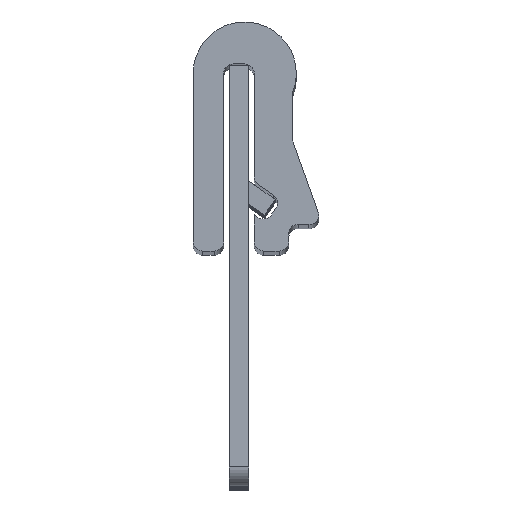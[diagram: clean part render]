
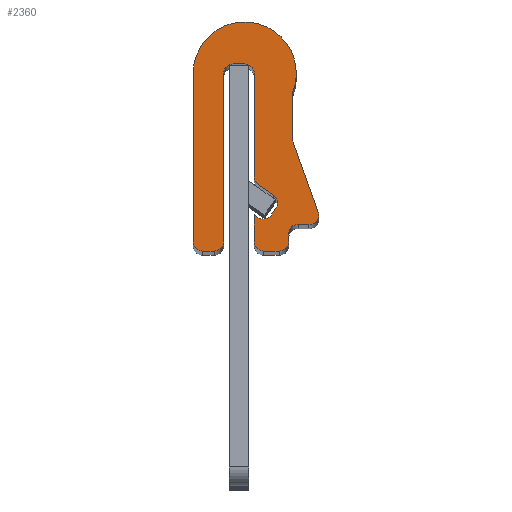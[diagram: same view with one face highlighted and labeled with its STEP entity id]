
A CAD part, top view. The second image highlights one B-rep face of the part: STEP entity #2360.
In plain terms, the highlighted planar face has unit normal (0, 0, 1).
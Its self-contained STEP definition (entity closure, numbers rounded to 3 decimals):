
#77=FACE_OUTER_BOUND('',#204,.T.);
#204=EDGE_LOOP('',(#1661,#1662,#1663,#1664,#1665,#1666,#1667,#1668,#1669,
#1670,#1671,#1672,#1673,#1674,#1675,#1676,#1677,#1678,#1679,#1680,#1681,
#1682,#1683,#1684,#1685,#1686));
#319=LINE('',#3401,#604);
#321=LINE('',#3405,#606);
#324=LINE('',#3413,#609);
#327=LINE('',#3421,#612);
#330=LINE('',#3429,#615);
#333=LINE('',#3437,#618);
#335=LINE('',#3441,#620);
#338=LINE('',#3449,#623);
#341=LINE('',#3457,#626);
#344=LINE('',#3465,#629);
#347=LINE('',#3473,#632);
#350=LINE('',#3481,#635);
#353=LINE('',#3489,#638);
#356=LINE('',#3497,#641);
#604=VECTOR('',#2707,1.232);
#606=VECTOR('',#2711,2.018);
#609=VECTOR('',#2720,0.268);
#612=VECTOR('',#2729,0.2);
#615=VECTOR('',#2738,0.4);
#618=VECTOR('',#2747,0.703);
#620=VECTOR('',#2751,0.118);
#623=VECTOR('',#2760,0.206);
#626=VECTOR('',#2769,0.484);
#629=VECTOR('',#2778,2.706);
#632=VECTOR('',#2787,0.3);
#635=VECTOR('',#2796,4.4);
#638=VECTOR('',#2805,0.3);
#641=VECTOR('',#2814,4.4);
#886=CIRCLE('',#2481,0.232);
#887=CIRCLE('',#2484,0.25);
#888=CIRCLE('',#2487,0.25);
#889=CIRCLE('',#2490,0.25);
#890=CIRCLE('',#2494,0.25);
#891=CIRCLE('',#2497,0.25);
#892=CIRCLE('',#2500,0.25);
#893=CIRCLE('',#2503,0.25);
#894=CIRCLE('',#2506,0.25);
#895=CIRCLE('',#2509,0.25);
#896=CIRCLE('',#2512,0.25);
#897=CIRCLE('',#2515,1.35);
#970=VERTEX_POINT('',#3398);
#971=VERTEX_POINT('',#3400);
#972=VERTEX_POINT('',#3404);
#973=VERTEX_POINT('',#3408);
#974=VERTEX_POINT('',#3412);
#975=VERTEX_POINT('',#3416);
#976=VERTEX_POINT('',#3420);
#977=VERTEX_POINT('',#3424);
#978=VERTEX_POINT('',#3428);
#979=VERTEX_POINT('',#3432);
#980=VERTEX_POINT('',#3436);
#981=VERTEX_POINT('',#3440);
#982=VERTEX_POINT('',#3444);
#983=VERTEX_POINT('',#3448);
#984=VERTEX_POINT('',#3452);
#985=VERTEX_POINT('',#3456);
#986=VERTEX_POINT('',#3460);
#987=VERTEX_POINT('',#3464);
#988=VERTEX_POINT('',#3468);
#989=VERTEX_POINT('',#3472);
#990=VERTEX_POINT('',#3476);
#991=VERTEX_POINT('',#3480);
#992=VERTEX_POINT('',#3484);
#993=VERTEX_POINT('',#3488);
#994=VERTEX_POINT('',#3492);
#995=VERTEX_POINT('',#3496);
#1203=EDGE_CURVE('',#971,#970,#319,.T.);
#1205=EDGE_CURVE('',#972,#971,#321,.T.);
#1207=EDGE_CURVE('',#973,#972,#886,.T.);
#1209=EDGE_CURVE('',#974,#973,#324,.T.);
#1211=EDGE_CURVE('',#975,#974,#887,.T.);
#1213=EDGE_CURVE('',#976,#975,#327,.T.);
#1215=EDGE_CURVE('',#977,#976,#888,.T.);
#1217=EDGE_CURVE('',#978,#977,#330,.T.);
#1219=EDGE_CURVE('',#979,#978,#889,.T.);
#1221=EDGE_CURVE('',#980,#979,#333,.T.);
#1223=EDGE_CURVE('',#981,#980,#335,.T.);
#1225=EDGE_CURVE('',#982,#981,#890,.T.);
#1227=EDGE_CURVE('',#983,#982,#338,.T.);
#1229=EDGE_CURVE('',#984,#983,#891,.T.);
#1231=EDGE_CURVE('',#985,#984,#341,.T.);
#1233=EDGE_CURVE('',#986,#985,#892,.T.);
#1235=EDGE_CURVE('',#987,#986,#344,.T.);
#1237=EDGE_CURVE('',#988,#987,#893,.T.);
#1239=EDGE_CURVE('',#989,#988,#347,.T.);
#1241=EDGE_CURVE('',#990,#989,#894,.T.);
#1243=EDGE_CURVE('',#991,#990,#350,.T.);
#1245=EDGE_CURVE('',#992,#991,#895,.T.);
#1247=EDGE_CURVE('',#993,#992,#353,.T.);
#1249=EDGE_CURVE('',#994,#993,#896,.T.);
#1251=EDGE_CURVE('',#995,#994,#356,.T.);
#1253=EDGE_CURVE('',#970,#995,#897,.T.);
#1661=ORIENTED_EDGE('',*,*,#1253,.T.);
#1662=ORIENTED_EDGE('',*,*,#1251,.T.);
#1663=ORIENTED_EDGE('',*,*,#1249,.T.);
#1664=ORIENTED_EDGE('',*,*,#1247,.T.);
#1665=ORIENTED_EDGE('',*,*,#1245,.T.);
#1666=ORIENTED_EDGE('',*,*,#1243,.T.);
#1667=ORIENTED_EDGE('',*,*,#1241,.T.);
#1668=ORIENTED_EDGE('',*,*,#1239,.T.);
#1669=ORIENTED_EDGE('',*,*,#1237,.T.);
#1670=ORIENTED_EDGE('',*,*,#1235,.T.);
#1671=ORIENTED_EDGE('',*,*,#1233,.T.);
#1672=ORIENTED_EDGE('',*,*,#1231,.T.);
#1673=ORIENTED_EDGE('',*,*,#1229,.T.);
#1674=ORIENTED_EDGE('',*,*,#1227,.T.);
#1675=ORIENTED_EDGE('',*,*,#1225,.T.);
#1676=ORIENTED_EDGE('',*,*,#1223,.T.);
#1677=ORIENTED_EDGE('',*,*,#1221,.T.);
#1678=ORIENTED_EDGE('',*,*,#1219,.T.);
#1679=ORIENTED_EDGE('',*,*,#1217,.T.);
#1680=ORIENTED_EDGE('',*,*,#1215,.T.);
#1681=ORIENTED_EDGE('',*,*,#1213,.T.);
#1682=ORIENTED_EDGE('',*,*,#1211,.T.);
#1683=ORIENTED_EDGE('',*,*,#1209,.T.);
#1684=ORIENTED_EDGE('',*,*,#1207,.T.);
#1685=ORIENTED_EDGE('',*,*,#1205,.T.);
#1686=ORIENTED_EDGE('',*,*,#1203,.T.);
#2256=PLANE('',#2516);
#2360=ADVANCED_FACE('',(#77),#2256,.T.);
#2481=AXIS2_PLACEMENT_3D('',#3409,#2715,#2716);
#2484=AXIS2_PLACEMENT_3D('',#3417,#2724,#2725);
#2487=AXIS2_PLACEMENT_3D('',#3425,#2733,#2734);
#2490=AXIS2_PLACEMENT_3D('',#3433,#2742,#2743);
#2494=AXIS2_PLACEMENT_3D('',#3445,#2755,#2756);
#2497=AXIS2_PLACEMENT_3D('',#3453,#2764,#2765);
#2500=AXIS2_PLACEMENT_3D('',#3461,#2773,#2774);
#2503=AXIS2_PLACEMENT_3D('',#3469,#2782,#2783);
#2506=AXIS2_PLACEMENT_3D('',#3477,#2791,#2792);
#2509=AXIS2_PLACEMENT_3D('',#3485,#2800,#2801);
#2512=AXIS2_PLACEMENT_3D('',#3493,#2809,#2810);
#2515=AXIS2_PLACEMENT_3D('',#3500,#2818,#2819);
#2516=AXIS2_PLACEMENT_3D('',#3501,#2820,#2821);
#2707=DIRECTION('',(0.,1.,0.));
#2711=DIRECTION('',(-0.336,0.942,0.));
#2715=DIRECTION('center_axis',(0.,0.,1.));
#2716=DIRECTION('ref_axis',(-0.114,-0.993,0.));
#2720=DIRECTION('',(1.,0.,0.));
#2724=DIRECTION('center_axis',(0.,0.,-1.));
#2725=DIRECTION('ref_axis',(-0.062,-0.998,0.));
#2729=DIRECTION('',(0.,1.,0.));
#2733=DIRECTION('center_axis',(0.,0.,1.));
#2734=DIRECTION('ref_axis',(0.,-1.,0.));
#2738=DIRECTION('',(1.,0.,0.));
#2742=DIRECTION('center_axis',(0.,0.,1.));
#2743=DIRECTION('ref_axis',(-1.,0.,0.));
#2747=DIRECTION('',(0.,-1.,0.));
#2751=DIRECTION('',(-0.819,0.574,0.));
#2755=DIRECTION('center_axis',(0.,0.,-1.));
#2756=DIRECTION('ref_axis',(0.574,0.819,0.));
#2760=DIRECTION('',(-0.584,-0.812,0.));
#2764=DIRECTION('center_axis',(0.,0.,-1.));
#2765=DIRECTION('ref_axis',(-0.812,0.584,0.));
#2769=DIRECTION('',(0.819,-0.574,0.));
#2773=DIRECTION('center_axis',(0.,0.,1.));
#2774=DIRECTION('ref_axis',(-1.,0.,0.));
#2778=DIRECTION('',(0.,-1.,0.));
#2782=DIRECTION('center_axis',(0.,0.,-1.));
#2783=DIRECTION('ref_axis',(-1.,0.,0.));
#2787=DIRECTION('',(1.,0.,0.));
#2791=DIRECTION('center_axis',(0.,0.,-1.));
#2792=DIRECTION('ref_axis',(0.,-1.,0.));
#2796=DIRECTION('',(0.,1.,0.));
#2800=DIRECTION('center_axis',(0.,0.,1.));
#2801=DIRECTION('ref_axis',(0.,-1.,0.));
#2805=DIRECTION('',(1.,0.,0.));
#2809=DIRECTION('center_axis',(0.,0.,1.));
#2810=DIRECTION('ref_axis',(-1.,0.,0.));
#2814=DIRECTION('',(0.,-1.,0.));
#2818=DIRECTION('center_axis',(0.,0.,1.));
#2819=DIRECTION('ref_axis',(0.926,-0.378,0.));
#2820=DIRECTION('center_axis',(0.,0.,1.));
#2821=DIRECTION('ref_axis',(1.,0.,0.));
#3398=CARTESIAN_POINT('',(1.,1.24,31.5));
#3400=CARTESIAN_POINT('',(1.,0.008,31.5));
#3401=CARTESIAN_POINT('',(1.,0.008,31.5));
#3404=CARTESIAN_POINT('',(1.678,-1.892,31.5));
#3405=CARTESIAN_POINT('',(1.678,-1.892,31.5));
#3408=CARTESIAN_POINT('',(1.434,-2.2,31.5));
#3409=CARTESIAN_POINT('Origin',(1.46,-1.97,31.5));
#3412=CARTESIAN_POINT('',(1.165,-2.2,31.5));
#3413=CARTESIAN_POINT('',(1.165,-2.2,31.5));
#3416=CARTESIAN_POINT('',(0.9,-2.45,31.5));
#3417=CARTESIAN_POINT('Origin',(1.15,-2.45,31.5));
#3420=CARTESIAN_POINT('',(0.9,-2.65,31.5));
#3421=CARTESIAN_POINT('',(0.9,-2.65,31.5));
#3424=CARTESIAN_POINT('',(0.65,-2.9,31.5));
#3425=CARTESIAN_POINT('Origin',(0.65,-2.65,31.5));
#3428=CARTESIAN_POINT('',(0.25,-2.9,31.5));
#3429=CARTESIAN_POINT('',(0.25,-2.9,31.5));
#3432=CARTESIAN_POINT('',(0.,-2.65,31.5));
#3433=CARTESIAN_POINT('Origin',(0.25,-2.65,31.5));
#3436=CARTESIAN_POINT('',(0.,-1.947,31.5));
#3437=CARTESIAN_POINT('',(0.,-1.947,31.5));
#3440=CARTESIAN_POINT('',(0.097,-2.015,31.5));
#3441=CARTESIAN_POINT('',(0.097,-2.015,31.5));
#3444=CARTESIAN_POINT('',(0.443,-1.956,31.5));
#3445=CARTESIAN_POINT('Origin',(0.24,-1.81,31.5));
#3448=CARTESIAN_POINT('',(0.563,-1.789,31.5));
#3449=CARTESIAN_POINT('',(0.563,-1.789,31.5));
#3452=CARTESIAN_POINT('',(0.503,-1.438,31.5));
#3453=CARTESIAN_POINT('Origin',(0.36,-1.643,31.5));
#3456=CARTESIAN_POINT('',(0.107,-1.16,31.5));
#3457=CARTESIAN_POINT('',(0.107,-1.16,31.5));
#3460=CARTESIAN_POINT('',(0.,-0.956,31.5));
#3461=CARTESIAN_POINT('Origin',(0.25,-0.956,31.5));
#3464=CARTESIAN_POINT('',(0.,1.75,31.5));
#3465=CARTESIAN_POINT('',(0.,1.75,31.5));
#3468=CARTESIAN_POINT('',(-0.25,2.,31.5));
#3469=CARTESIAN_POINT('Origin',(-0.25,1.75,31.5));
#3472=CARTESIAN_POINT('',(-0.55,2.,31.5));
#3473=CARTESIAN_POINT('',(-0.55,2.,31.5));
#3476=CARTESIAN_POINT('',(-0.8,1.75,31.5));
#3477=CARTESIAN_POINT('Origin',(-0.55,1.75,31.5));
#3480=CARTESIAN_POINT('',(-0.8,-2.65,31.5));
#3481=CARTESIAN_POINT('',(-0.8,-2.65,31.5));
#3484=CARTESIAN_POINT('',(-1.05,-2.9,31.5));
#3485=CARTESIAN_POINT('Origin',(-1.05,-2.65,31.5));
#3488=CARTESIAN_POINT('',(-1.35,-2.9,31.5));
#3489=CARTESIAN_POINT('',(-1.35,-2.9,31.5));
#3492=CARTESIAN_POINT('',(-1.6,-2.65,31.5));
#3493=CARTESIAN_POINT('Origin',(-1.35,-2.65,31.5));
#3496=CARTESIAN_POINT('',(-1.6,1.75,31.5));
#3497=CARTESIAN_POINT('',(-1.6,1.75,31.5));
#3500=CARTESIAN_POINT('Origin',(-0.25,1.75,31.5));
#3501=CARTESIAN_POINT('Origin',(-0.247,-0.221,31.5));
